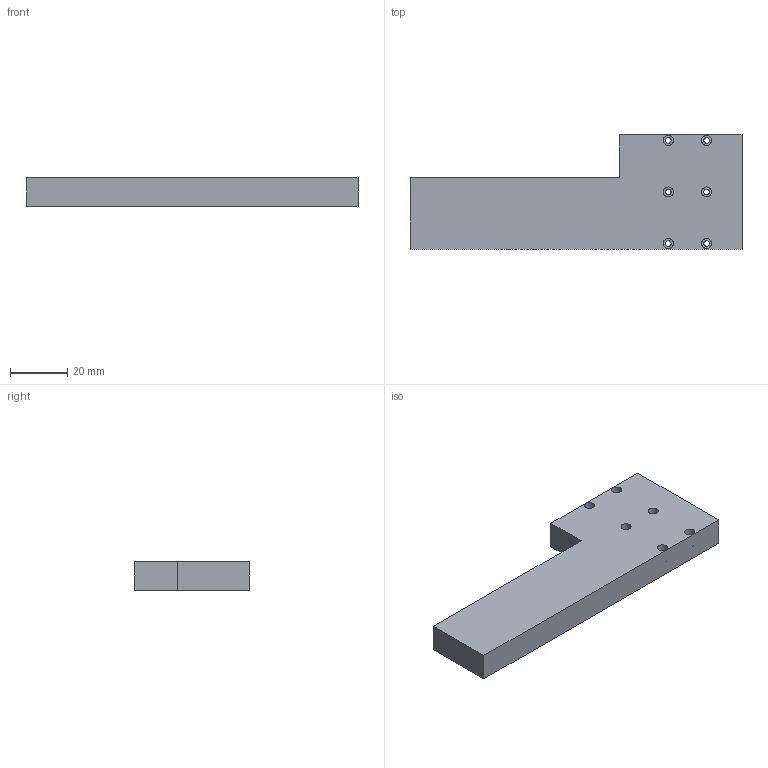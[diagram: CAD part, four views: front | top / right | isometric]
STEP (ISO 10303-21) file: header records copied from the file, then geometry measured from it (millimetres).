
FILE_DESCRIPTION(/* description */ ('','CAx-IF Rec.Pracs.---Representation and Presentation of Product Manufacturing Information (PMI)---3.8---2014-02-18'),/* implementation_level */ '2;1');
FILE_NAME(/* name */ 'D:\Inventor\1p2p\for vendors\DM mount\Optima order\DM_smaract_bottom.stp',/* time_stamp */ '2018-05-07T12:58:26-07:00',/* author */ ('Radek'),/* organization */ (''),/* preprocessor_version */ 'ST-DEVELOPER v16.5',/* originating_system */ 'Autodesk Inventor 2017',/* authorisation */ '');
FILE_SCHEMA (('AP242_MANAGED_MODEL_BASED_3D_ENGINEERING_MIM_LF { 1 0 10303 442 1 1 4 }'));
Length unit declared in the file: millimetre
Products named in the file (1): DM_smaract_bottom
Bounding box: 116.01 x 40 x 10 mm (x, y, z)
Volume: 33752.9 mm3; surface area: 11827 mm2
Topology: 1 solids, 1 shells, 36 faces, 69 edges, 46 vertices
Faces by surface type: plane 19, cylinder 17
Full cylindrical faces by diameter (mm): 2 x6, 2.5 x2, 3.5 x6, 5 x3
Entity records: 896 total; most frequent: DIRECTION 160, CARTESIAN_POINT 135, ORIENTED_EDGE 104, EDGE_LOOP 76, AXIS2_PLACEMENT_3D 71, EDGE_CURVE 52, VERTEX_POINT 46, FACE_BOUND 40
